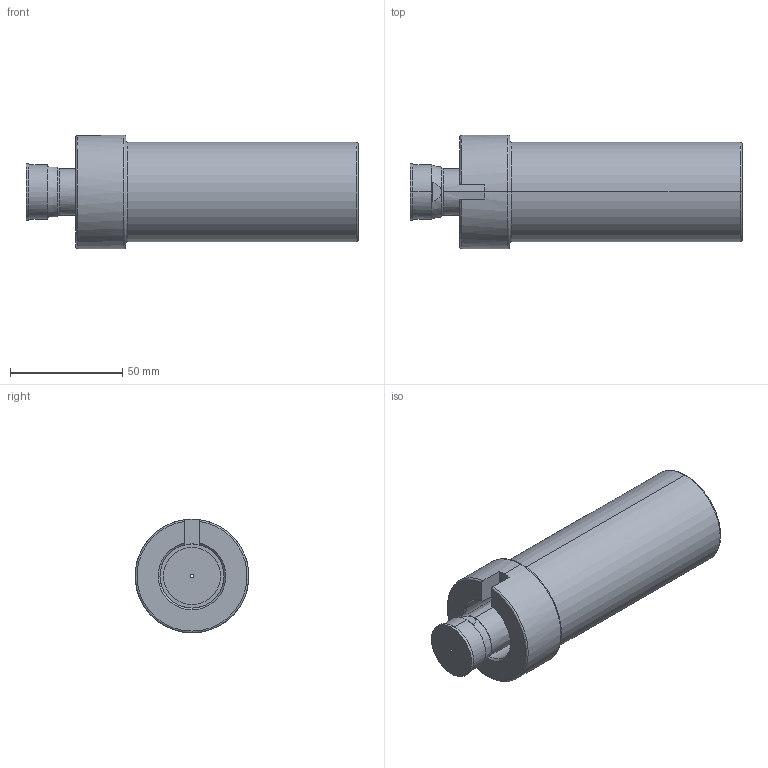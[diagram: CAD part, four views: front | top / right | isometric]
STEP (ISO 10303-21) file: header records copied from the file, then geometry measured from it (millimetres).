
FILE_DESCRIPTION (( 'STEP AP203' ), '1' );
FILE_NAME ('Conan100-HS-0.875.STEP', '2021-11-09T14:05:04', ( 'Jerry' ), ( '' ), 'SwSTEP 2.0', 'SolidWorks 2013', '' );
FILE_SCHEMA (( 'CONFIG_CONTROL_DESIGN' ));
Length unit declared in the file: inch
Products named in the file (1): Conan100-HS-0.875
Bounding box: 147.96 x 50.67 x 50.67 mm (x, y, z)
Volume: 172755.6 mm3; surface area: 45822.9 mm2
Topology: 1 solids, 1 shells, 116 faces, 286 edges, 176 vertices
Faces by surface type: cylinder 40, plane 32, torus 16, cone 11, sphere 10, bspline 7
Entity records: 3832 total; most frequent: CARTESIAN_POINT 1031, DIRECTION 602, ORIENTED_EDGE 560, EDGE_CURVE 280, AXIS2_PLACEMENT_3D 257, VERTEX_POINT 176, CIRCLE 147, EDGE_LOOP 128
